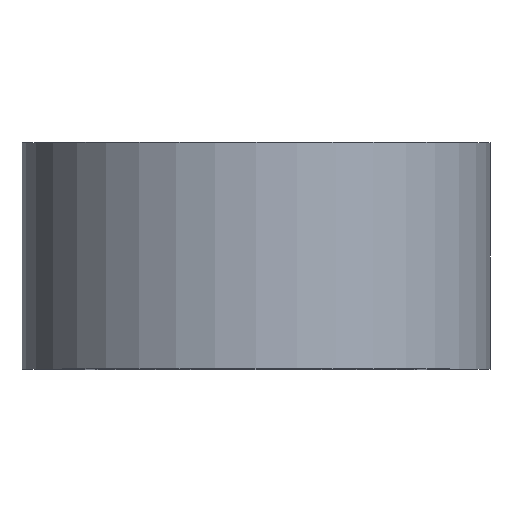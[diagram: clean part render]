
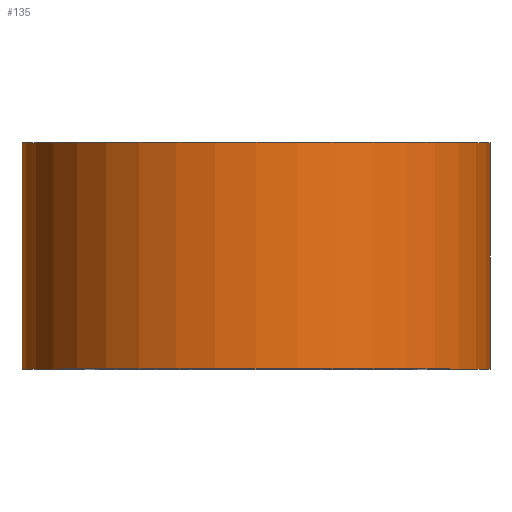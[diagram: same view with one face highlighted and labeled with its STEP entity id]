
A CAD part, top view. The second image highlights one B-rep face of the part: STEP entity #135.
In plain terms, the highlighted cylindrical face has radius 31 mm (diameter 62 mm), a partial arc.
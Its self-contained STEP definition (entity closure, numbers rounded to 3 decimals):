
#12 = DIRECTION ( 'NONE',  ( 0., 1., 0. ) ) ;
#14 = VECTOR ( 'NONE', #12, 1000. ) ;
#26 = VERTEX_POINT ( 'NONE', #261 ) ;
#32 = DIRECTION ( 'NONE',  ( -1., 0., 0. ) ) ;
#43 = CARTESIAN_POINT ( 'NONE',  ( -31., 0., 0. ) ) ;
#50 = VERTEX_POINT ( 'NONE', #144 ) ;
#65 = EDGE_CURVE ( 'NONE', #50, #100, #109, .T. ) ;
#76 = CYLINDRICAL_SURFACE ( 'NONE', #153, 31. ) ;
#81 = FACE_OUTER_BOUND ( 'NONE', #186, .T. ) ;
#88 = CIRCLE ( 'NONE', #286, 31. ) ;
#100 = VERTEX_POINT ( 'NONE', #289 ) ;
#101 = EDGE_CURVE ( 'NONE', #26, #100, #131, .T. ) ;
#104 = CARTESIAN_POINT ( 'NONE',  ( 0., 0., 0. ) ) ;
#109 = LINE ( 'NONE', #234, #187 ) ;
#131 = CIRCLE ( 'NONE', #251, 31. ) ;
#135 = ADVANCED_FACE ( 'NONE', ( #81 ), #76, .T. ) ;
#141 = DIRECTION ( 'NONE',  ( 0., 1., 0. ) ) ;
#142 = ORIENTED_EDGE ( 'NONE', *, *, #149, .F. ) ;
#144 = CARTESIAN_POINT ( 'NONE',  ( 31., 0., 0. ) ) ;
#149 = EDGE_CURVE ( 'NONE', #214, #26, #196, .T. ) ;
#153 = AXIS2_PLACEMENT_3D ( 'NONE', #104, #193, #32 ) ;
#171 = EDGE_CURVE ( 'NONE', #214, #50, #88, .T. ) ;
#176 = ORIENTED_EDGE ( 'NONE', *, *, #65, .T. ) ;
#186 = EDGE_LOOP ( 'NONE', ( #238, #176, #203, #142 ) ) ;
#187 = VECTOR ( 'NONE', #141, 1000. ) ;
#193 = DIRECTION ( 'NONE',  ( 0., 1., 0. ) ) ;
#196 = LINE ( 'NONE', #284, #14 ) ;
#197 = CARTESIAN_POINT ( 'NONE',  ( 0., 30., 0. ) ) ;
#201 = DIRECTION ( 'NONE',  ( 0., 1., 0. ) ) ;
#203 = ORIENTED_EDGE ( 'NONE', *, *, #101, .F. ) ;
#206 = CARTESIAN_POINT ( 'NONE',  ( 0., 0., 0. ) ) ;
#214 = VERTEX_POINT ( 'NONE', #43 ) ;
#228 = DIRECTION ( 'NONE',  ( -1., 0., 0. ) ) ;
#233 = DIRECTION ( 'NONE',  ( 0., 1., 0. ) ) ;
#234 = CARTESIAN_POINT ( 'NONE',  ( 31., 0., 0. ) ) ;
#238 = ORIENTED_EDGE ( 'NONE', *, *, #171, .T. ) ;
#246 = DIRECTION ( 'NONE',  ( -1., 0., 0. ) ) ;
#251 = AXIS2_PLACEMENT_3D ( 'NONE', #197, #233, #228 ) ;
#261 = CARTESIAN_POINT ( 'NONE',  ( -31., 30., 0. ) ) ;
#284 = CARTESIAN_POINT ( 'NONE',  ( -31., 0., 0. ) ) ;
#286 = AXIS2_PLACEMENT_3D ( 'NONE', #206, #201, #246 ) ;
#289 = CARTESIAN_POINT ( 'NONE',  ( 31., 30., 0. ) ) ;
